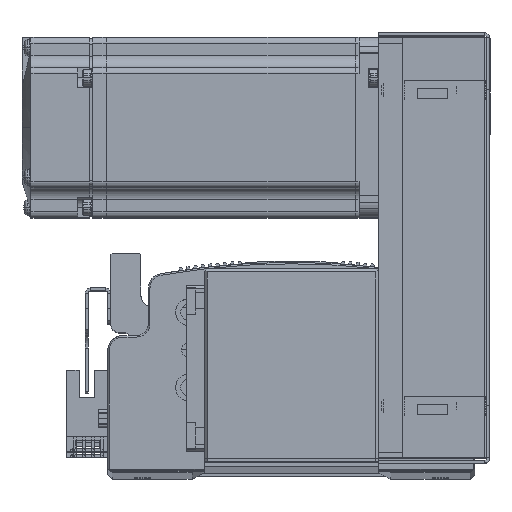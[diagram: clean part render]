
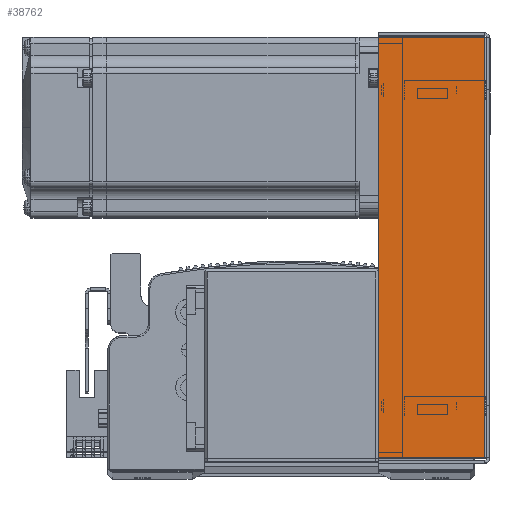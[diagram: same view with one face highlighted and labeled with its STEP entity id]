
A CAD part, top view. The second image highlights one B-rep face of the part: STEP entity #38762.
In plain terms, the highlighted planar face has unit normal (0, 0, 1) as drawn and (0, 0, -1) by its records, which use the part's own axes.
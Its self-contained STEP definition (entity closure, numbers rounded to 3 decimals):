
#622 = VERTEX_POINT ( 'NONE', #13909 ) ;
#632 = VERTEX_POINT ( 'NONE', #13895 ) ;
#654 = VERTEX_POINT ( 'NONE', #13886 ) ;
#655 = LINE ( 'NONE', #86388, #718 ) ;
#669 = VERTEX_POINT ( 'NONE', #13054 ) ;
#718 = VECTOR ( 'NONE', #86370, 1000. ) ;
#11423 = EDGE_CURVE ( 'NONE', #632, #669, #79993, .T. ) ;
#11445 = EDGE_CURVE ( 'NONE', #669, #654, #655, .T. ) ;
#11645 = EDGE_CURVE ( 'NONE', #632, #622, #69684, .T. ) ;
#11670 = EDGE_CURVE ( 'NONE', #622, #654, #77178, .T. ) ;
#12879 = EDGE_LOOP ( 'NONE', ( #72266, #72390, #72302, #72333 ) ) ;
#13054 = CARTESIAN_POINT ( 'NONE',  ( -69.793, 36., -33.5 ) ) ;
#13886 = CARTESIAN_POINT ( 'NONE',  ( 69.793, 36., -33.5 ) ) ;
#13895 = CARTESIAN_POINT ( 'NONE',  ( -69.793, 0.737, -33.5 ) ) ;
#13909 = CARTESIAN_POINT ( 'NONE',  ( 69.793, 0.737, -33.5 ) ) ;
#30677 = FACE_OUTER_BOUND ( 'NONE', #12879, .T. ) ;
#38762 = ADVANCED_FACE ( 'NONE', ( #30677 ), #78534, .F. ) ;
#48199 = AXIS2_PLACEMENT_3D ( 'NONE', #78530, #78544, #78562 ) ;
#69684 = LINE ( 'NONE', #83310, #69690 ) ;
#69690 = VECTOR ( 'NONE', #83302, 1000. ) ;
#72266 = ORIENTED_EDGE ( 'NONE', *, *, #11645, .F. ) ;
#72302 = ORIENTED_EDGE ( 'NONE', *, *, #11445, .T. ) ;
#72333 = ORIENTED_EDGE ( 'NONE', *, *, #11670, .F. ) ;
#72390 = ORIENTED_EDGE ( 'NONE', *, *, #11423, .T. ) ;
#77178 = LINE ( 'NONE', #83341, #77250 ) ;
#77250 = VECTOR ( 'NONE', #83315, 1000. ) ;
#78530 = CARTESIAN_POINT ( 'NONE',  ( 0., 0., -33.5 ) ) ;
#78534 = PLANE ( 'NONE',  #48199 ) ;
#78544 = DIRECTION ( 'NONE',  ( 0., 0., 1. ) ) ;
#78562 = DIRECTION ( 'NONE',  ( 0., -1., 0. ) ) ;
#79955 = VECTOR ( 'NONE', #86242, 1000. ) ;
#79993 = LINE ( 'NONE', #86299, #79955 ) ;
#83302 = DIRECTION ( 'NONE',  ( 1., 0., 0. ) ) ;
#83310 = CARTESIAN_POINT ( 'NONE',  ( 71.5, 0.737, -33.5 ) ) ;
#83315 = DIRECTION ( 'NONE',  ( 0., 1., 0. ) ) ;
#83341 = CARTESIAN_POINT ( 'NONE',  ( 69.793, 0., -33.5 ) ) ;
#86242 = DIRECTION ( 'NONE',  ( 0., 1., 0. ) ) ;
#86299 = CARTESIAN_POINT ( 'NONE',  ( -69.793, 0., -33.5 ) ) ;
#86370 = DIRECTION ( 'NONE',  ( 1., 0., 0. ) ) ;
#86388 = CARTESIAN_POINT ( 'NONE',  ( 0., 36., -33.5 ) ) ;
